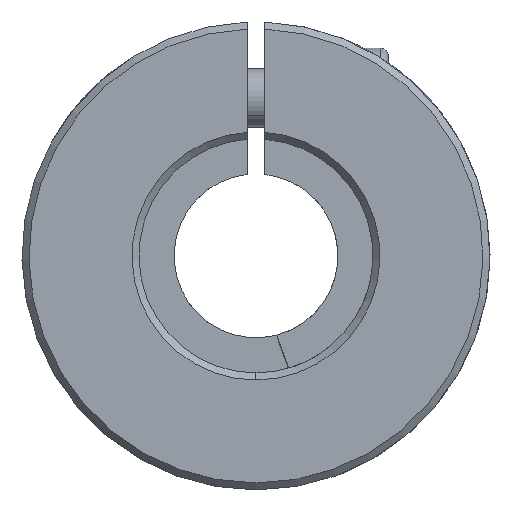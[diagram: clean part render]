
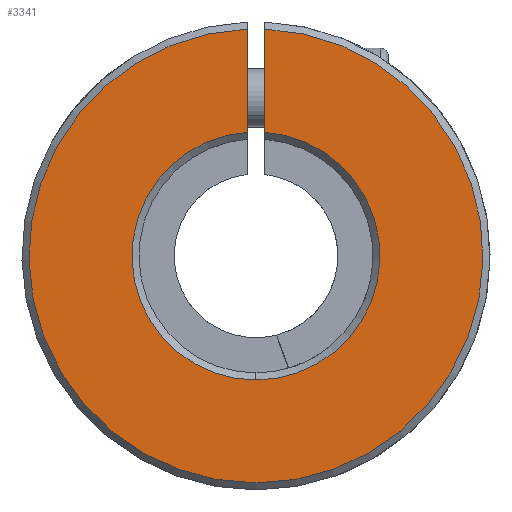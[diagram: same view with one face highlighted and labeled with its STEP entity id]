
A CAD part, front view. The second image highlights one B-rep face of the part: STEP entity #3341.
In plain terms, the highlighted planar face has unit normal (0, -1, 0).
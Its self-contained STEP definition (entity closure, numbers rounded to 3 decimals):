
#70 = CARTESIAN_POINT ( 'NONE',  ( 0., -25., 0. ) ) ;
#393 = AXIS2_PLACEMENT_3D ( 'NONE', #3934, #2317, #3672 ) ;
#434 = EDGE_CURVE ( 'NONE', #4745, #4308, #2030, .T. ) ;
#443 = CIRCLE ( 'NONE', #3838, 10.6 ) ;
#488 = VECTOR ( 'NONE', #5468, 1000. ) ;
#783 = PLANE ( 'NONE',  #393 ) ;
#807 = VECTOR ( 'NONE', #1220, 1000. ) ;
#846 = ORIENTED_EDGE ( 'NONE', *, *, #3144, .T. ) ;
#867 = DIRECTION ( 'NONE',  ( 0., -1., 0. ) ) ;
#915 = CIRCLE ( 'NONE', #3284, 19.4 ) ;
#1171 = DIRECTION ( 'NONE',  ( 0., 0., 1. ) ) ;
#1220 = DIRECTION ( 'NONE',  ( 0., 0., -1. ) ) ;
#1254 = EDGE_CURVE ( 'NONE', #4719, #3712, #2971, .T. ) ;
#1331 = VERTEX_POINT ( 'NONE', #5409 ) ;
#1529 = ORIENTED_EDGE ( 'NONE', *, *, #1842, .T. ) ;
#1831 = DIRECTION ( 'NONE',  ( 0., 1., 0. ) ) ;
#1842 = EDGE_CURVE ( 'NONE', #1331, #4719, #915, .T. ) ;
#2030 = CIRCLE ( 'NONE', #2419, 10.6 ) ;
#2182 = EDGE_CURVE ( 'NONE', #3712, #4745, #443, .T. ) ;
#2317 = DIRECTION ( 'NONE',  ( 0., 1., 0. ) ) ;
#2419 = AXIS2_PLACEMENT_3D ( 'NONE', #2546, #4739, #1171 ) ;
#2546 = CARTESIAN_POINT ( 'NONE',  ( 0., -25., 0. ) ) ;
#2971 = LINE ( 'NONE', #5272, #807 ) ;
#3144 = EDGE_CURVE ( 'NONE', #4308, #1331, #5005, .T. ) ;
#3149 = FACE_OUTER_BOUND ( 'NONE', #3760, .T. ) ;
#3172 = CARTESIAN_POINT ( 'NONE',  ( 0.75, -25., 19.385 ) ) ;
#3178 = CARTESIAN_POINT ( 'NONE',  ( 0., -25., 0. ) ) ;
#3253 = ORIENTED_EDGE ( 'NONE', *, *, #434, .T. ) ;
#3284 = AXIS2_PLACEMENT_3D ( 'NONE', #70, #867, #3676 ) ;
#3341 = ADVANCED_FACE ( 'NONE', ( #3149 ), #783, .F. ) ;
#3348 = ORIENTED_EDGE ( 'NONE', *, *, #1254, .T. ) ;
#3672 = DIRECTION ( 'NONE',  ( 0., 0., 1. ) ) ;
#3676 = DIRECTION ( 'NONE',  ( 0., 0., 1. ) ) ;
#3683 = CARTESIAN_POINT ( 'NONE',  ( -0.75, -25., -6. ) ) ;
#3712 = VERTEX_POINT ( 'NONE', #5358 ) ;
#3760 = EDGE_LOOP ( 'NONE', ( #3348, #5295, #3253, #846, #1529 ) ) ;
#3838 = AXIS2_PLACEMENT_3D ( 'NONE', #3178, #1831, #4960 ) ;
#3881 = CARTESIAN_POINT ( 'NONE',  ( -0.75, -25., 10.573 ) ) ;
#3934 = CARTESIAN_POINT ( 'NONE',  ( 0., -25., 0. ) ) ;
#4308 = VERTEX_POINT ( 'NONE', #3881 ) ;
#4719 = VERTEX_POINT ( 'NONE', #3172 ) ;
#4739 = DIRECTION ( 'NONE',  ( 0., 1., 0. ) ) ;
#4745 = VERTEX_POINT ( 'NONE', #4927 ) ;
#4927 = CARTESIAN_POINT ( 'NONE',  ( 0., -25., -10.6 ) ) ;
#4960 = DIRECTION ( 'NONE',  ( 0., 0., 1. ) ) ;
#5005 = LINE ( 'NONE', #3683, #488 ) ;
#5272 = CARTESIAN_POINT ( 'NONE',  ( 0.75, -25., -6. ) ) ;
#5295 = ORIENTED_EDGE ( 'NONE', *, *, #2182, .T. ) ;
#5358 = CARTESIAN_POINT ( 'NONE',  ( 0.75, -25., 10.573 ) ) ;
#5409 = CARTESIAN_POINT ( 'NONE',  ( -0.75, -25., 19.385 ) ) ;
#5468 = DIRECTION ( 'NONE',  ( 0., 0., 1. ) ) ;
